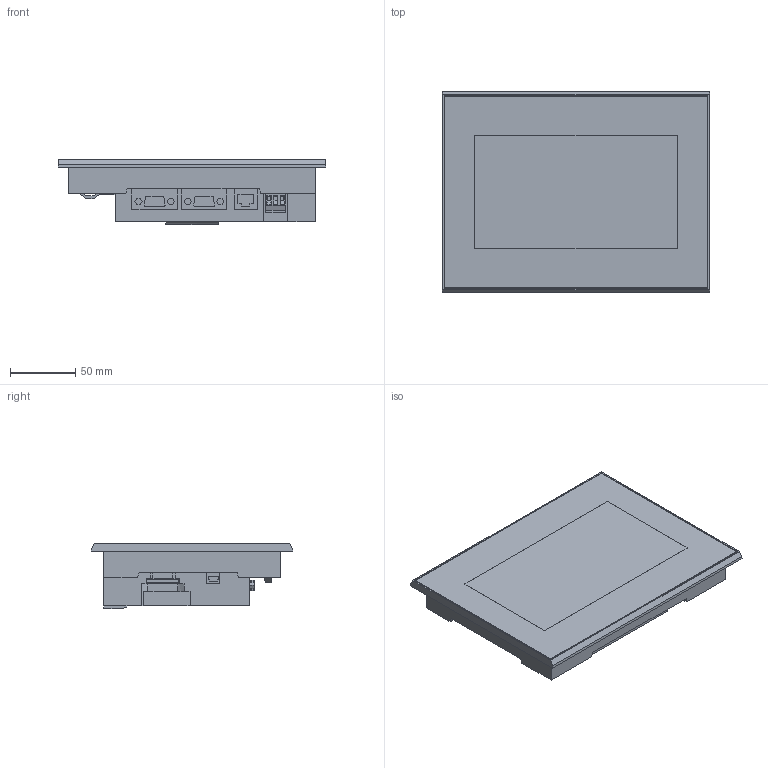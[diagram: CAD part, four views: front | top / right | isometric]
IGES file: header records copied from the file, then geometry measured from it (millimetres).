
Global section: file name: V:\GS2107\GS2107-WTBD\gs2107-wtbd_a.igs; preprocessor: I-DEAS 3D IGES Translator 15; date: 20140723.100556; units: millimetre
Bounding box: 206 x 155 x 50.03 mm (x, y, z)
Volume: 1052376.3 mm3; surface area: 97782.5 mm2
Topology: 1 solids, 1 shells, 206 faces, 544 edges, 358 vertices
Faces by surface type: bspline 206
